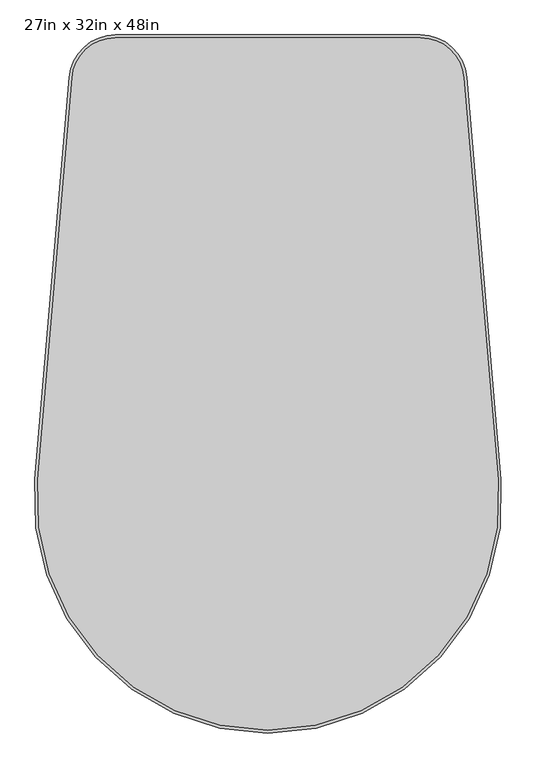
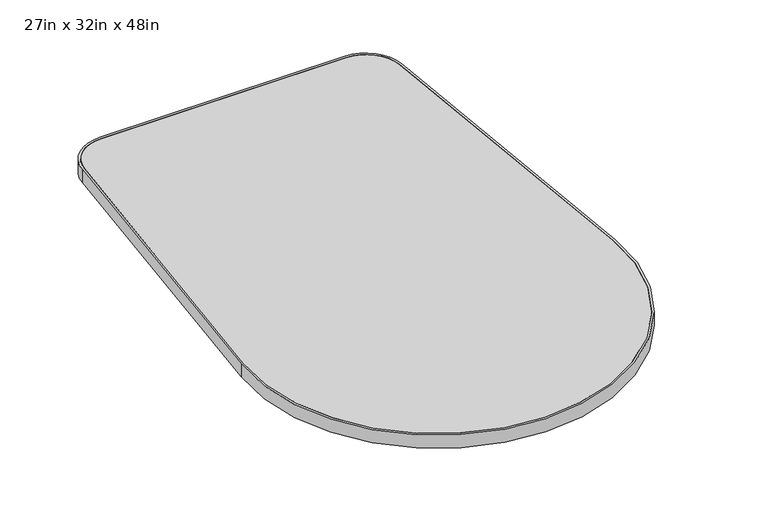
"""IFC4 building model written with IfcOpenShell, lengths in millimetres: furniture geometry, Steelcase - Answer Solution - Universal Table - Tapered Peninsula : 27in x 32in x 48in."""

from ifc_helpers import new_model, si_unit, point, frame, frame_2d, origin, place, context, project, spatial, polyline, circle_curve, trimmed, segment, composite_curve, outline, extrude, source, transform, mapped, element, save


def furniture_27in_x_32in_x_48in_75838feb(model_context):
    return source(origin(), model_context, "Body", "SweptSolid", [
        extrude(outline(composite_curve([segment(polyline([(-266.9749821, 0.0), (266.9749825, 0.0)]), True, "CONTINUOUS"), segment(trimmed(circle_curve(frame_2d((266.9749825, -81.28)), 81.28), [point((266.9749825, 0.0))], [point((347.9616678, -74.3810726))], False, "CARTESIAN"), True, "CONTINUOUS"), segment(polyline([(347.9616678, -74.3810726), (407.8918043, -777.9024801)]), True, "CONTINUOUS"), segment(trimmed(circle_curve(frame_2d((2.19e-05, -812.6491274)), 409.3690702), [point((407.8918043, -777.9024801))], [point((-407.8917627, -777.9025051))], False, "CARTESIAN"), True, "CONTINUOUS"), segment(polyline([(-407.8917627, -777.9025051), (-347.9616679, -74.3810776)]), True, "CONTINUOUS"), segment(trimmed(circle_curve(frame_2d((-266.9749821, -81.28)), 81.28), [point((-347.9616679, -74.3810776))], [point((-266.9749821, 0.0))], False, "CARTESIAN"), True, "CONTINUOUS")], self_intersect=False), holes=[composite_curve([segment(polyline([(402.8301365, -778.3336631), (342.9, -74.8122556)]), True, "CONTINUOUS"), segment(trimmed(circle_curve(frame_2d((266.9749825, -81.28)), 76.2), [point((342.9, -74.8122556))], [point((266.9749825, -5.08))], True, "CARTESIAN"), True, "CONTINUOUS"), segment(polyline([(266.9749825, -5.08), (-266.9749821, -5.08)]), True, "CONTINUOUS"), segment(trimmed(circle_curve(frame_2d((-266.9749821, -81.28)), 76.2), [point((-266.9749821, -5.08))], [point((-342.9, -74.8122602))], True, "CARTESIAN"), True, "CONTINUOUS"), segment(polyline([(-342.9, -74.8122602), (-402.8300948, -778.3336877)]), True, "CONTINUOUS"), segment(trimmed(circle_curve(frame_2d((2.19e-05, -812.6491274)), 404.2890702), [point((-402.8300948, -778.3336877))], [point((402.8301365, -778.3336631))], True, "CARTESIAN"), True, "CONTINUOUS")], self_intersect=False)]), frame((0.0, 0.0, 668.274), z_axis=(0.0, 0.0, 1.0), x_axis=(1.0, 0.0, 0.0)), (0.0, 0.0, 1.0), 30.0990349),
        extrude(outline(composite_curve([segment(polyline([(-402.8300948, -778.3336877), (-342.9, -74.8122602)]), True, "CONTINUOUS"), segment(trimmed(circle_curve(frame_2d((-266.9749821, -81.28)), 76.2), [point((-342.9, -74.8122602))], [point((-266.9749821, -5.08))], False, "CARTESIAN"), True, "CONTINUOUS"), segment(polyline([(-266.9749821, -5.08), (266.9749825, -5.08)]), True, "CONTINUOUS"), segment(trimmed(circle_curve(frame_2d((266.9749825, -81.28)), 76.2), [point((266.9749825, -5.08))], [point((342.9, -74.8122556))], False, "CARTESIAN"), True, "CONTINUOUS"), segment(polyline([(342.9, -74.8122556), (402.8301365, -778.3336631)]), True, "CONTINUOUS"), segment(trimmed(circle_curve(frame_2d((2.19e-05, -812.6491274)), 404.2890702), [point((402.8301365, -778.3336631))], [point((-402.8300948, -778.3336877))], False, "CARTESIAN"), True, "CONTINUOUS")], self_intersect=False)), frame((0.0, 0.0, 668.274), z_axis=(0.0, 0.0, 1.0), x_axis=(1.0, 0.0, 0.0)), (0.0, 0.0, 1.0), 30.0990349),
    ])


if __name__ == "__main__":
    model = new_model("IFC4")
    model_context = context("Model", 3, world=origin())
    ifc_project = project(units=[si_unit("LENGTHUNIT", "METRE", prefix="MILLI")], contexts=[model_context])
    site = spatial("IfcSite", under=ifc_project)
    building = spatial("IfcBuilding", under=site)
    placement = place(None, origin())
    furniture_27in_x_32in_x_48in_shape = furniture_27in_x_32in_x_48in_75838feb(model_context)
    element("IfcFurniture", 1, ObjectType="Steelcase - Answer Solution - Universal Table - Tapered Peninsula : 27in x 32in x 48in", at=placement, inside=building, context=model_context, shape_type="MappedRepresentation", body=[
        mapped(furniture_27in_x_32in_x_48in_shape, transform((0.0, 0.0, 0.0), x_axis=(1.0, 0.0, 0.0), y_axis=(0.0, 1.0, 0.0), z_axis=(0.0, 0.0, 1.0))),
    ])
    save(model, "model.ifc")
